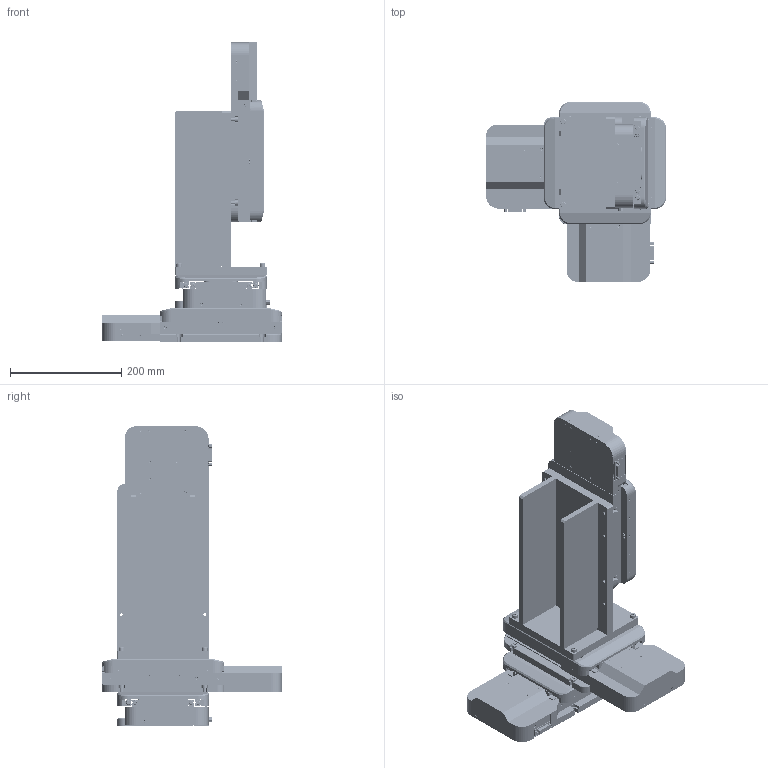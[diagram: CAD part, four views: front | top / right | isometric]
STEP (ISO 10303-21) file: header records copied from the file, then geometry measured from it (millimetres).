
FILE_DESCRIPTION(/* description */ (''),/* implementation_level */ '2;1');
FILE_NAME(/* name */ 'Z:\1_motorized_stages\01_国内製品\36_HST\HST-100\HST-100XYZ\HST-100XYZ_STP.stp',/* time_stamp */ '2016-06-14T11:22:23+09:00',/* author */ ('y.hoshiba'),/* organization */ (''),/* preprocessor_version */ 'ST-DEVELOPER v15.6',/* originating_system */ 'Autodesk Inventor 2015',/* authorisation */ '');
FILE_SCHEMA (('AUTOMOTIVE_DESIGN { 1 0 10303 214 3 1 1 }'));
Products named in the file (5): HST1005-M02-16001-S01; HST1005-M02-16001-S02; HST1005-M02-16001-S03; HST1005-M02-16001-S04; HST1005-M02-16001-TS01
Bounding box: 324 x 324 x 539 mm (x, y, z)
Volume: 5932816.8 mm3; surface area: 1585301.8 mm2
Topology: 4 solids, 456 shells, 10773 faces, 27003 edges, 17650 vertices
Faces by surface type: plane 6778, cylinder 2538, cone 1367, torus 66, bspline 24
Full cylindrical faces by diameter (mm): 1 x15, 1.45 x12, 1.47 x6, 1.567 x6, 1.6 x60, 1.8 x6, 2 x12, 2.113 x60, 2.2 x45, 2.4 x18, 2.459 x42, 2.5 x18, 2.6 x54, 3 x159, 3.1 x48, 3.2 x15, 3.242 x117, 3.3 x3, 3.5 x18, 3.7 x24, 3.8 x6, 4 x129, 4.134 x24, 4.2 x9, 4.3 x30, 4.5 x24, 4.917 x42, 5 x102, 5.5 x54, 6 x85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
Entity records: 298952 total; most frequent: CARTESIAN_POINT 55576, DIRECTION 50226, ORIENTED_EDGE 46102, EDGE_CURVE 23049, AXIS2_PLACEMENT_3D 17534, VERTEX_POINT 16348, LINE 15158, VECTOR 15158
